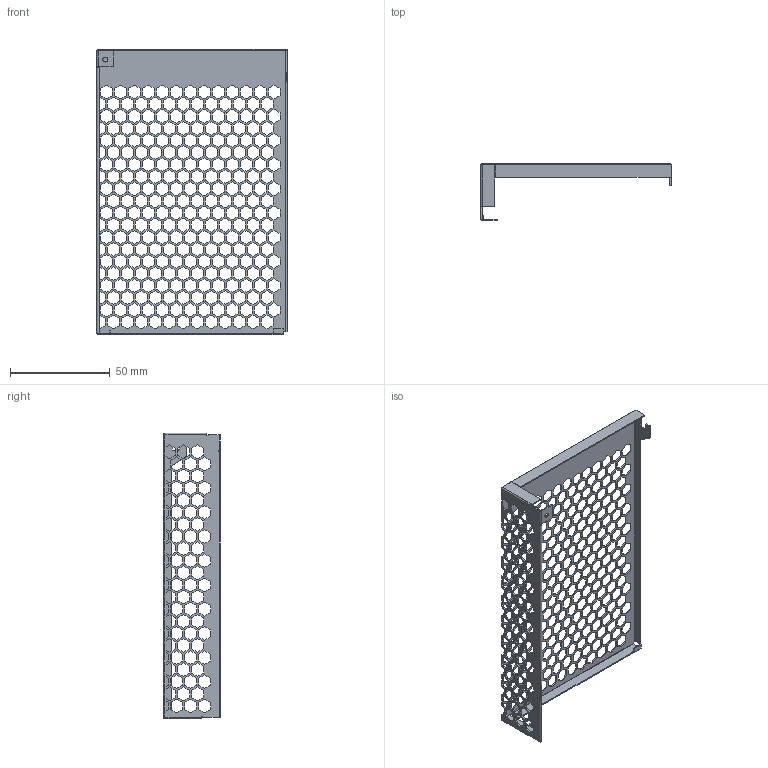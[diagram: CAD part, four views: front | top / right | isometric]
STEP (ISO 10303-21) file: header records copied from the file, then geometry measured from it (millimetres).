
FILE_DESCRIPTION(/* description */ ('STEP AP242 Edition 2','CAx-IF Rec.Pracs.---Representation and Presentation of Product Manufacturing Information (PMI)---4.0---2014-10-13','CAx-IF Rec.Pracs.---3D Tessellated Geometry---0.4---2014-09-14','2;1','CAx-IF Rec.Pracs.---User Defined Attributes---1.5---2016-08-15'),/* implementation_level */ '2;1');
FILE_NAME(/* name */ 'Final Build - LRS-150',/* time_stamp */ '2026-08-31T23:26:13Z',/* author */ (''),/* organization */ (''),/* preprocessor_version */ 'ST-DEVELOPER v20',/* originating_system */ 'ONSHAPE BY PTC INC, 1.220',/* authorisation */ ' ');
FILE_SCHEMA (('AP242_MANAGED_MODEL_BASED_3D_ENGINEERING_MIM_LF { 1 0 10303 442 3 1 4 }'));
Products named in the file (1): LRS-150
Bounding box: 95.3 x 28.5 x 143 mm (x, y, z)
Volume: 5669.9 mm3; surface area: 23355.7 mm2
Topology: 1 solids, 1 shells, 2176 faces, 6508 edges, 4292 vertices
Faces by surface type: plane 2066, cylinder 68, bspline 42
Full cylindrical faces by diameter (mm): 2.5 x1
Entity records: 75861 total; most frequent: CARTESIAN_POINT 16474, ORIENTED_EDGE 13014, DIRECTION 10649, EDGE_CURVE 6507, LINE 6275, VECTOR 6275, VERTEX_POINT 4292, EDGE_LOOP 2789
